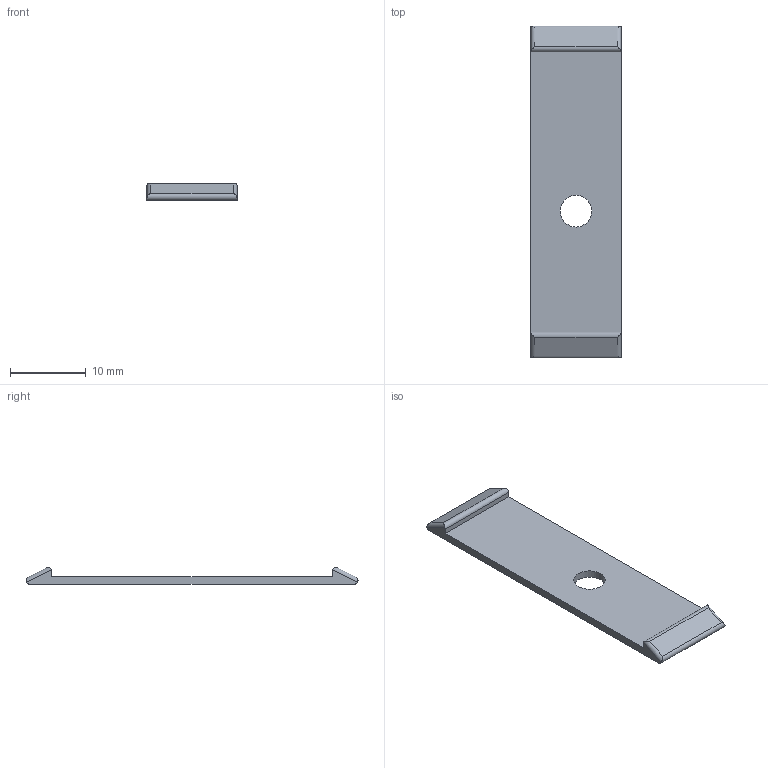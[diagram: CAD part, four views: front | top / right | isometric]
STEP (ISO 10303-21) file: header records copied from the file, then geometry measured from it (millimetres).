
FILE_DESCRIPTION(/* description */ (''),/* implementation_level */ '2;1');
FILE_NAME(/* name */ 'C:/Users/Ryan/Documents/AIO Robotics/CAD Files/BuckleBackLeft.step',/* time_stamp */ '2017-02-04T20:47:33-08:00',/* author */ (''),/* organization */ (''),/* preprocessor_version */ 'ST-DEVELOPER v16.5',/* originating_system */ 'Autodesk Translation Framework v5.2.0.2920',/* authorisation */ '');
FILE_SCHEMA (('AUTOMOTIVE_DESIGN { 1 0 10303 214 3 1 1 }'));
Length unit declared in the file: inch
Products named in the file (1): BuckleBL v11
Bounding box: 11.94 x 43.96 x 2.23 mm (x, y, z)
Volume: 567.5 mm3; surface area: 1174.1 mm2
Topology: 1 solids, 1 shells, 17 faces, 45 edges, 30 vertices
Faces by surface type: cylinder 9, plane 8
Full cylindrical faces by diameter (mm): 4.191 x1
Entity records: 560 total; most frequent: DIRECTION 98, CARTESIAN_POINT 92, ORIENTED_EDGE 88, EDGE_CURVE 44, AXIS2_PLACEMENT_3D 36, VERTEX_POINT 30, LINE 26, VECTOR 26
